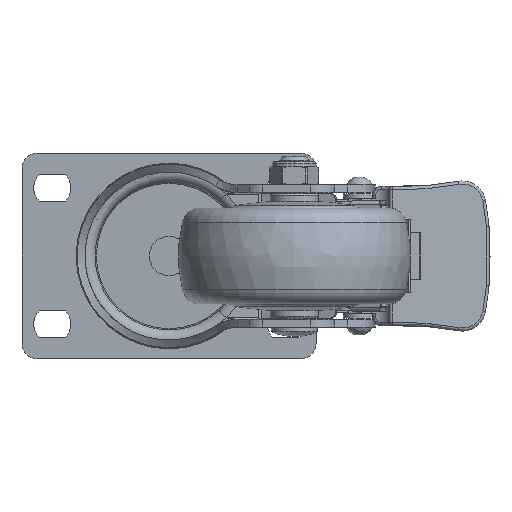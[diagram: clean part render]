
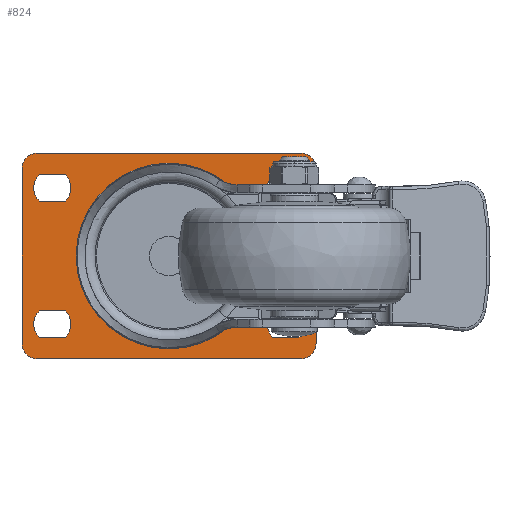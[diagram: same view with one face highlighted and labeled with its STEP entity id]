
A CAD part, front view. The second image highlights one B-rep face of the part: STEP entity #824.
In plain terms, the highlighted planar face has unit normal (0, -1, 0) as drawn and (0, 1, 0) by its records, which use the part's own axes.
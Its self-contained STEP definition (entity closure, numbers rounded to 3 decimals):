
#59=CARTESIAN_POINT('',(-46.247,24.298,0.));
#60=DIRECTION('',(0.,1.,0.));
#61=DIRECTION('',(-1.,0.,0.));
#62=AXIS2_PLACEMENT_3D('',#59,#60,#61);
#64=CARTESIAN_POINT('',(-46.247,24.298,0.));
#65=DIRECTION('',(0.,-1.,0.));
#66=DIRECTION('',(-1.,0.,0.));
#67=AXIS2_PLACEMENT_3D('',#64,#65,#66);
#69=CARTESIAN_POINT('',(-3.747,24.298,28.25));
#70=DIRECTION('',(0.,1.,0.));
#71=DIRECTION('',(0.,0.,1.));
#72=AXIS2_PLACEMENT_3D('',#69,#70,#71);
#74=CARTESIAN_POINT('',(-88.747,24.298,28.25));
#75=DIRECTION('',(0.,1.,0.));
#76=DIRECTION('',(-1.,0.,0.));
#77=AXIS2_PLACEMENT_3D('',#74,#75,#76);
#79=CARTESIAN_POINT('',(-88.747,24.298,-28.25));
#80=DIRECTION('',(0.,1.,0.));
#81=DIRECTION('',(0.,0.,-1.));
#82=AXIS2_PLACEMENT_3D('',#79,#80,#81);
#84=CARTESIAN_POINT('',(-3.747,24.298,-28.25));
#85=DIRECTION('',(0.,1.,0.));
#86=DIRECTION('',(1.,0.,0.));
#87=AXIS2_PLACEMENT_3D('',#84,#85,#86);
#89=DIRECTION('',(-1.,0.,0.));
#90=VECTOR('',#89,8.471);
#91=CARTESIAN_POINT('',(-79.761,24.298,26.25));
#92=LINE('',#91,#90);
#93=CARTESIAN_POINT('',(-83.997,24.298,22.));
#94=DIRECTION('',(0.,-1.,0.));
#95=DIRECTION('',(0.706,0.,-0.708));
#96=AXIS2_PLACEMENT_3D('',#93,#94,#95);
#98=DIRECTION('',(1.,0.,0.));
#99=VECTOR('',#98,8.471);
#100=CARTESIAN_POINT('',(-88.232,24.298,17.75));
#101=LINE('',#100,#99);
#102=CARTESIAN_POINT('',(-83.997,24.298,22.));
#103=DIRECTION('',(0.,-1.,0.));
#104=DIRECTION('',(-0.706,0.,0.708));
#105=AXIS2_PLACEMENT_3D('',#102,#103,#104);
#107=CARTESIAN_POINT('',(-8.497,24.298,22.));
#108=DIRECTION('',(0.,-1.,0.));
#109=DIRECTION('',(-0.706,0.,0.708));
#110=AXIS2_PLACEMENT_3D('',#107,#108,#109);
#112=DIRECTION('',(-1.,0.,0.));
#113=VECTOR('',#112,8.471);
#114=CARTESIAN_POINT('',(-4.261,24.298,26.25));
#115=LINE('',#114,#113);
#116=CARTESIAN_POINT('',(-8.497,24.298,22.));
#117=DIRECTION('',(0.,-1.,0.));
#118=DIRECTION('',(0.706,0.,-0.708));
#119=AXIS2_PLACEMENT_3D('',#116,#117,#118);
#121=DIRECTION('',(1.,0.,0.));
#122=VECTOR('',#121,8.471);
#123=CARTESIAN_POINT('',(-12.732,24.298,17.75));
#124=LINE('',#123,#122);
#125=DIRECTION('',(1.,0.,0.));
#126=VECTOR('',#125,8.471);
#127=CARTESIAN_POINT('',(-12.732,24.298,-26.25));
#128=LINE('',#127,#126);
#129=CARTESIAN_POINT('',(-8.497,24.298,-22.));
#130=DIRECTION('',(0.,-1.,0.));
#131=DIRECTION('',(-0.706,0.,0.708));
#132=AXIS2_PLACEMENT_3D('',#129,#130,#131);
#134=DIRECTION('',(-1.,0.,0.));
#135=VECTOR('',#134,8.471);
#136=CARTESIAN_POINT('',(-4.261,24.298,-17.75));
#137=LINE('',#136,#135);
#138=CARTESIAN_POINT('',(-8.497,24.298,-22.));
#139=DIRECTION('',(0.,-1.,0.));
#140=DIRECTION('',(0.706,0.,-0.708));
#141=AXIS2_PLACEMENT_3D('',#138,#139,#140);
#143=CARTESIAN_POINT('',(-83.997,24.298,-22.));
#144=DIRECTION('',(0.,-1.,0.));
#145=DIRECTION('',(0.706,0.,-0.708));
#146=AXIS2_PLACEMENT_3D('',#143,#144,#145);
#148=DIRECTION('',(1.,0.,0.));
#149=VECTOR('',#148,8.471);
#150=CARTESIAN_POINT('',(-88.232,24.298,-26.25));
#151=LINE('',#150,#149);
#152=CARTESIAN_POINT('',(-83.997,24.298,-22.));
#153=DIRECTION('',(0.,-1.,0.));
#154=DIRECTION('',(-0.706,0.,0.708));
#155=AXIS2_PLACEMENT_3D('',#152,#153,#154);
#157=DIRECTION('',(-1.,0.,0.));
#158=VECTOR('',#157,8.471);
#159=CARTESIAN_POINT('',(-79.761,24.298,-17.75));
#160=LINE('',#159,#158);
#165=DIRECTION('',(0.,0.,-1.));
#166=VECTOR('',#165,56.5);
#167=CARTESIAN_POINT('',(1.253,24.298,28.25));
#168=LINE('',#167,#166);
#189=DIRECTION('',(-1.,0.,0.));
#190=VECTOR('',#189,85.);
#191=CARTESIAN_POINT('',(-3.747,24.298,-33.25));
#192=LINE('',#191,#190);
#205=DIRECTION('',(0.,0.,1.));
#206=VECTOR('',#205,56.5);
#207=CARTESIAN_POINT('',(-93.747,24.298,-28.25));
#208=LINE('',#207,#206);
#221=DIRECTION('',(1.,0.,0.));
#222=VECTOR('',#221,85.);
#223=CARTESIAN_POINT('',(-88.747,24.298,33.25));
#224=LINE('',#223,#222);
#523=CARTESIAN_POINT('',(-64.884,24.298,0.));
#524=VERTEX_POINT('',#523);
#535=CARTESIAN_POINT('',(-27.61,24.298,0.));
#536=VERTEX_POINT('',#535);
#541=CARTESIAN_POINT('',(-3.747,24.298,33.25));
#542=CARTESIAN_POINT('',(1.253,24.298,28.25));
#543=VERTEX_POINT('',#541);
#544=VERTEX_POINT('',#542);
#549=CARTESIAN_POINT('',(-93.747,24.298,28.25));
#550=CARTESIAN_POINT('',(-88.747,24.298,33.25));
#551=VERTEX_POINT('',#549);
#552=VERTEX_POINT('',#550);
#557=CARTESIAN_POINT('',(-88.747,24.298,-33.25));
#558=CARTESIAN_POINT('',(-93.747,24.298,-28.25));
#559=VERTEX_POINT('',#557);
#560=VERTEX_POINT('',#558);
#565=CARTESIAN_POINT('',(1.253,24.298,-28.25));
#566=CARTESIAN_POINT('',(-3.747,24.298,-33.25));
#567=VERTEX_POINT('',#565);
#568=VERTEX_POINT('',#566);
#581=CARTESIAN_POINT('',(-79.761,24.298,26.25));
#582=CARTESIAN_POINT('',(-88.232,24.298,26.25));
#583=VERTEX_POINT('',#581);
#584=VERTEX_POINT('',#582);
#585=CARTESIAN_POINT('',(-88.232,24.298,17.75));
#586=VERTEX_POINT('',#585);
#587=CARTESIAN_POINT('',(-79.761,24.298,17.75));
#588=VERTEX_POINT('',#587);
#589=CARTESIAN_POINT('',(-12.732,24.298,26.25));
#590=CARTESIAN_POINT('',(-12.732,24.298,17.75));
#591=VERTEX_POINT('',#589);
#592=VERTEX_POINT('',#590);
#593=CARTESIAN_POINT('',(-4.261,24.298,17.75));
#594=VERTEX_POINT('',#593);
#595=CARTESIAN_POINT('',(-4.261,24.298,26.25));
#596=VERTEX_POINT('',#595);
#597=CARTESIAN_POINT('',(-12.732,24.298,-26.25));
#598=CARTESIAN_POINT('',(-4.261,24.298,-26.25));
#599=VERTEX_POINT('',#597);
#600=VERTEX_POINT('',#598);
#601=CARTESIAN_POINT('',(-4.261,24.298,-17.75));
#602=VERTEX_POINT('',#601);
#603=CARTESIAN_POINT('',(-12.732,24.298,-17.75));
#604=VERTEX_POINT('',#603);
#605=CARTESIAN_POINT('',(-79.761,24.298,-26.25));
#606=CARTESIAN_POINT('',(-79.761,24.298,-17.75));
#607=VERTEX_POINT('',#605);
#608=VERTEX_POINT('',#606);
#609=CARTESIAN_POINT('',(-88.232,24.298,-17.75));
#610=VERTEX_POINT('',#609);
#611=CARTESIAN_POINT('',(-88.232,24.298,-26.25));
#612=VERTEX_POINT('',#611);
#757=CARTESIAN_POINT('',(-46.247,24.298,0.));
#758=DIRECTION('',(0.,-1.,0.));
#759=DIRECTION('',(-1.,0.,0.));
#760=AXIS2_PLACEMENT_3D('',#757,#758,#759);
#761=PLANE('',#760);
#763=ORIENTED_EDGE('',*,*,#762,.F.);
#765=ORIENTED_EDGE('',*,*,#764,.F.);
#767=ORIENTED_EDGE('',*,*,#766,.F.);
#769=ORIENTED_EDGE('',*,*,#768,.F.);
#771=ORIENTED_EDGE('',*,*,#770,.F.);
#773=ORIENTED_EDGE('',*,*,#772,.F.);
#775=ORIENTED_EDGE('',*,*,#774,.F.);
#777=ORIENTED_EDGE('',*,*,#776,.F.);
#778=EDGE_LOOP('',(#763,#765,#767,#769,#771,#773,#775,#777));
#779=FACE_OUTER_BOUND('',#778,.F.);
#780=ORIENTED_EDGE('',*,*,#739,.T.);
#781=ORIENTED_EDGE('',*,*,#750,.F.);
#782=EDGE_LOOP('',(#780,#781));
#783=FACE_BOUND('',#782,.F.);
#785=ORIENTED_EDGE('',*,*,#784,.F.);
#787=ORIENTED_EDGE('',*,*,#786,.F.);
#789=ORIENTED_EDGE('',*,*,#788,.F.);
#791=ORIENTED_EDGE('',*,*,#790,.F.);
#792=EDGE_LOOP('',(#785,#787,#789,#791));
#793=FACE_BOUND('',#792,.F.);
#795=ORIENTED_EDGE('',*,*,#794,.F.);
#797=ORIENTED_EDGE('',*,*,#796,.F.);
#799=ORIENTED_EDGE('',*,*,#798,.F.);
#801=ORIENTED_EDGE('',*,*,#800,.F.);
#802=EDGE_LOOP('',(#795,#797,#799,#801));
#803=FACE_BOUND('',#802,.F.);
#805=ORIENTED_EDGE('',*,*,#804,.F.);
#807=ORIENTED_EDGE('',*,*,#806,.F.);
#809=ORIENTED_EDGE('',*,*,#808,.F.);
#811=ORIENTED_EDGE('',*,*,#810,.F.);
#812=EDGE_LOOP('',(#805,#807,#809,#811));
#813=FACE_BOUND('',#812,.F.);
#815=ORIENTED_EDGE('',*,*,#814,.F.);
#817=ORIENTED_EDGE('',*,*,#816,.F.);
#819=ORIENTED_EDGE('',*,*,#818,.F.);
#821=ORIENTED_EDGE('',*,*,#820,.F.);
#822=EDGE_LOOP('',(#815,#817,#819,#821));
#823=FACE_BOUND('',#822,.F.);
#63=CIRCLE('',#62,18.637);
#68=CIRCLE('',#67,18.637);
#73=CIRCLE('',#72,5.);
#78=CIRCLE('',#77,5.);
#83=CIRCLE('',#82,5.);
#88=CIRCLE('',#87,5.);
#97=CIRCLE('',#96,6.);
#106=CIRCLE('',#105,6.);
#111=CIRCLE('',#110,6.);
#120=CIRCLE('',#119,6.);
#133=CIRCLE('',#132,6.);
#142=CIRCLE('',#141,6.);
#147=CIRCLE('',#146,6.);
#156=CIRCLE('',#155,6.);
#739=EDGE_CURVE('',#524,#536,#63,.T.);
#750=EDGE_CURVE('',#524,#536,#68,.T.);
#762=EDGE_CURVE('',#543,#544,#73,.T.);
#764=EDGE_CURVE('',#552,#543,#224,.T.);
#766=EDGE_CURVE('',#551,#552,#78,.T.);
#768=EDGE_CURVE('',#560,#551,#208,.T.);
#770=EDGE_CURVE('',#559,#560,#83,.T.);
#772=EDGE_CURVE('',#568,#559,#192,.T.);
#774=EDGE_CURVE('',#567,#568,#88,.T.);
#776=EDGE_CURVE('',#544,#567,#168,.T.);
#784=EDGE_CURVE('',#583,#584,#92,.T.);
#786=EDGE_CURVE('',#588,#583,#97,.T.);
#788=EDGE_CURVE('',#586,#588,#101,.T.);
#790=EDGE_CURVE('',#584,#586,#106,.T.);
#794=EDGE_CURVE('',#591,#592,#111,.T.);
#796=EDGE_CURVE('',#596,#591,#115,.T.);
#798=EDGE_CURVE('',#594,#596,#120,.T.);
#800=EDGE_CURVE('',#592,#594,#124,.T.);
#804=EDGE_CURVE('',#599,#600,#128,.T.);
#806=EDGE_CURVE('',#604,#599,#133,.T.);
#808=EDGE_CURVE('',#602,#604,#137,.T.);
#810=EDGE_CURVE('',#600,#602,#142,.T.);
#814=EDGE_CURVE('',#607,#608,#147,.T.);
#816=EDGE_CURVE('',#612,#607,#151,.T.);
#818=EDGE_CURVE('',#610,#612,#156,.T.);
#820=EDGE_CURVE('',#608,#610,#160,.T.);
#824=ADVANCED_FACE('',(#779,#783,#793,#803,#813,#823),#761,.F.);
